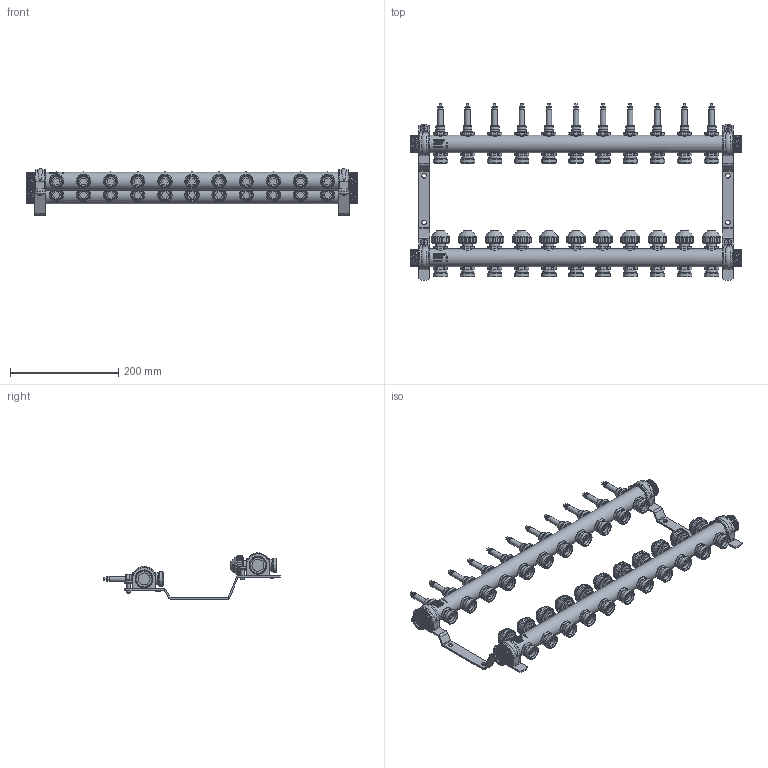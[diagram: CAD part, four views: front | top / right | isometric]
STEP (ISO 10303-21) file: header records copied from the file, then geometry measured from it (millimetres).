
FILE_DESCRIPTION((''),'2;1');
FILE_NAME('C:\Users\duckj\Desktop\10070009.stp','2017-08-01T10:57:05',('duckj'),(''),'Autodesk Inventor 2013','Autodesk Inventor 2013','');
FILE_SCHEMA(('CONFIG_CONTROL_DESIGN'));
Length unit declared in the file: millimetre
Products named in the file (4): 01082017_001-E; 26102016_005; 01082017_001-VL; 01082017_001-RL
Assembly tree (4 placements, depth 2):
  01082017_001-E
    26102016_005  x2
    01082017_001-VL
    01082017_001-RL
Bounding box: 610 x 326.05 x 85.7 mm (x, y, z)
Volume: 1573800.3 mm3; surface area: 322323.7 mm2
Topology: 4 solids, 4 shells, 4134 faces, 10754 edges, 7037 vertices
Faces by surface type: plane 2043, cylinder 1068, cone 712, bspline 242, torus 65, sphere 4
Full cylindrical faces by diameter (mm): 6 x8, 8.5 x4, 9 x11, 10 x22, 12 x4, 15.5 x11, 16.5 x22, 18 x11, 18.1 x22, 18.5 x44, 22 x70, 26.441 x22, 30 x11, 33 x6, 33.7 x11
Entity records: 189397 total; most frequent: CARTESIAN_POINT 93823, ORIENTED_EDGE 19464, DIRECTION 18359, EDGE_CURVE 9732, AXIS2_PLACEMENT_3D 7072, VERTEX_POINT 6589, EDGE_LOOP 4839, VECTOR 4215
